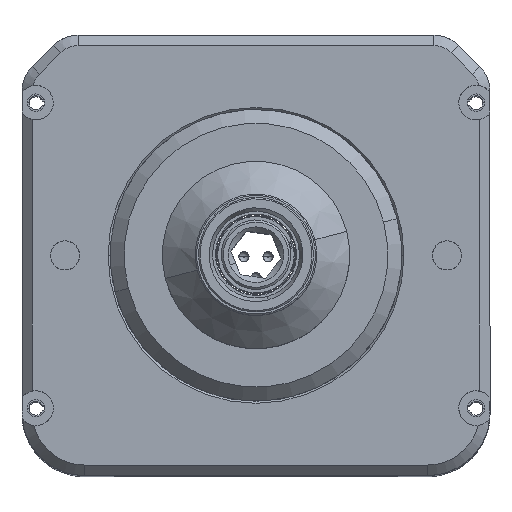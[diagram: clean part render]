
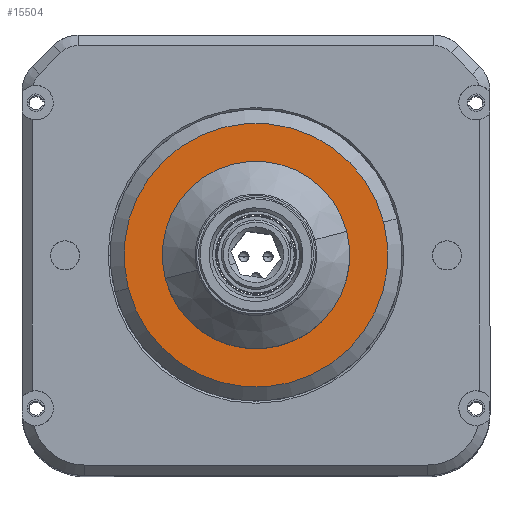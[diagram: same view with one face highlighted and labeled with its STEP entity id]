
A CAD part, top view. The second image highlights one B-rep face of the part: STEP entity #15504.
In plain terms, the highlighted planar face has unit normal (0, 0, 1).
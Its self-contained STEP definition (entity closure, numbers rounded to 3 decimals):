
#60 = CARTESIAN_POINT ( 'NONE',  ( 0., 0., 24. ) ) ;
#1435 = DIRECTION ( 'NONE',  ( 0., 0., 1. ) ) ;
#2103 = CARTESIAN_POINT ( 'NONE',  ( -13.067, -3.39, 24. ) ) ;
#5401 = DIRECTION ( 'NONE',  ( 0.968, 0.251, 0. ) ) ;
#6681 = VERTEX_POINT ( 'NONE', #2103 ) ;
#6833 = ORIENTED_EDGE ( 'NONE', *, *, #25973, .T. ) ;
#7131 = CIRCLE ( 'NONE', #28466, 13.5 ) ;
#8151 = ORIENTED_EDGE ( 'NONE', *, *, #10217, .T. ) ;
#8344 = ORIENTED_EDGE ( 'NONE', *, *, #13452, .F. ) ;
#8433 = FACE_OUTER_BOUND ( 'NONE', #8517, .T. ) ;
#8517 = EDGE_LOOP ( 'NONE', ( #6833, #8151 ) ) ;
#8730 = AXIS2_PLACEMENT_3D ( 'NONE', #9626, #29164, #21832 ) ;
#9626 = CARTESIAN_POINT ( 'NONE',  ( 0., 0., 24. ) ) ;
#10217 = EDGE_CURVE ( 'NONE', #19926, #21824, #12147, .T. ) ;
#10725 = CARTESIAN_POINT ( 'NONE',  ( 0., 0., 24. ) ) ;
#10849 = CARTESIAN_POINT ( 'NONE',  ( 0., 0., 24. ) ) ;
#11370 = AXIS2_PLACEMENT_3D ( 'NONE', #23048, #15418, #5401 ) ;
#12014 = DIRECTION ( 'NONE',  ( 0., 0., 1. ) ) ;
#12147 = CIRCLE ( 'NONE', #26337, 19. ) ;
#13251 = DIRECTION ( 'NONE',  ( 0., 0., 1. ) ) ;
#13452 = EDGE_CURVE ( 'NONE', #25209, #6681, #7131, .T. ) ;
#15068 = AXIS2_PLACEMENT_3D ( 'NONE', #60, #12014, #24565 ) ;
#15198 = CARTESIAN_POINT ( 'NONE',  ( 13.067, 3.39, 24. ) ) ;
#15418 = DIRECTION ( 'NONE',  ( 0., 0., 1. ) ) ;
#15504 = ADVANCED_FACE ( 'NONE', ( #8433, #22737 ), #30042, .T. ) ;
#19926 = VERTEX_POINT ( 'NONE', #21460 ) ;
#20509 = DIRECTION ( 'NONE',  ( 0.968, 0.251, 0. ) ) ;
#21362 = CIRCLE ( 'NONE', #8730, 19. ) ;
#21460 = CARTESIAN_POINT ( 'NONE',  ( 18.391, 4.771, 24. ) ) ;
#21824 = VERTEX_POINT ( 'NONE', #28066 ) ;
#21832 = DIRECTION ( 'NONE',  ( 0.968, 0.251, 0. ) ) ;
#22175 = EDGE_CURVE ( 'NONE', #6681, #25209, #30303, .T. ) ;
#22737 = FACE_BOUND ( 'NONE', #28872, .T. ) ;
#22794 = DIRECTION ( 'NONE',  ( 0.968, 0.251, 0. ) ) ;
#23048 = CARTESIAN_POINT ( 'NONE',  ( -3.39, 13.067, 24. ) ) ;
#24141 = ORIENTED_EDGE ( 'NONE', *, *, #22175, .F. ) ;
#24565 = DIRECTION ( 'NONE',  ( 0.968, 0.251, 0. ) ) ;
#25209 = VERTEX_POINT ( 'NONE', #15198 ) ;
#25973 = EDGE_CURVE ( 'NONE', #21824, #19926, #21362, .T. ) ;
#26337 = AXIS2_PLACEMENT_3D ( 'NONE', #10849, #1435, #20509 ) ;
#28066 = CARTESIAN_POINT ( 'NONE',  ( -18.391, -4.771, 24. ) ) ;
#28466 = AXIS2_PLACEMENT_3D ( 'NONE', #10725, #13251, #22794 ) ;
#28872 = EDGE_LOOP ( 'NONE', ( #8344, #24141 ) ) ;
#29164 = DIRECTION ( 'NONE',  ( 0., 0., 1. ) ) ;
#30042 = PLANE ( 'NONE',  #11370 ) ;
#30303 = CIRCLE ( 'NONE', #15068, 13.5 ) ;
